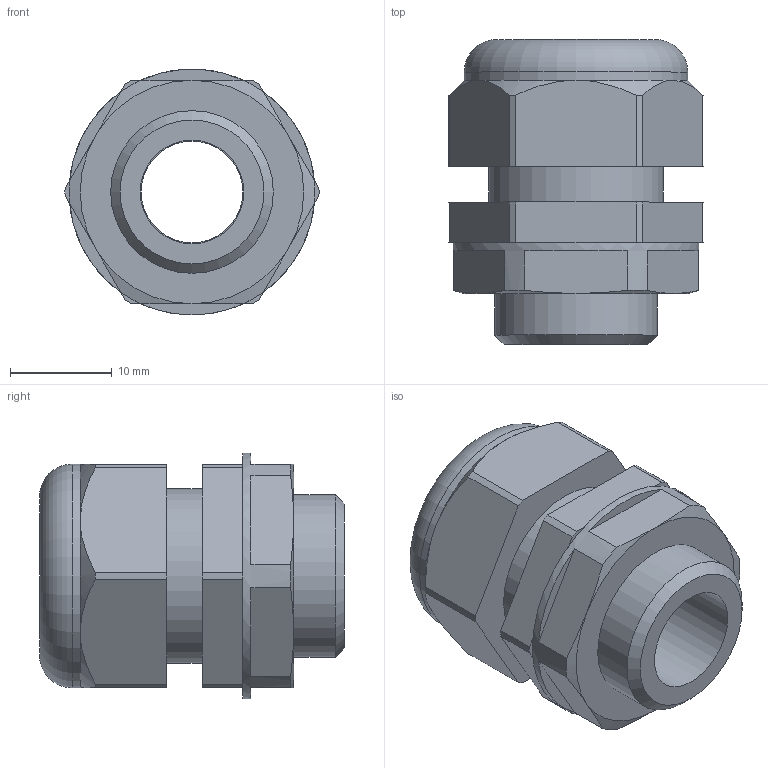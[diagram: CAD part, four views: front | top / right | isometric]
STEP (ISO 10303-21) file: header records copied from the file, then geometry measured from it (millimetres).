
FILE_DESCRIPTION( ( 'STEP AP214' ), '1' );
FILE_NAME( 'p:/temp/worker_149/temp/exporttempdir_5004_31_TKjis/format_0/2411.611(10).stp', '2020-06-09T13:42:13', ( 'License CC BY-ND 4.0' ), ( 'CADENAS' ), ' ', 'PARTsolutions', ' ' );
FILE_SCHEMA( ( 'AUTOMOTIVE_DESIGN { 1 0 10303 214 1 1 1 1 }' ) );
Length unit declared in the file: millimetre
Products named in the file (3): 2411.611(10); _2411.611(10)_01; _2411.611_02
Assembly tree (2 placements, depth 2):
  2411.611(10)
    _2411.611(10)_01
    _2411.611_02
Bounding box: 25 x 30 x 24.2 mm (x, y, z)
Volume: 8203.2 mm3; surface area: 4980 mm2
Topology: 2 solids, 2 shells, 70 faces, 166 edges, 105 vertices
Faces by surface type: plane 33, cylinder 20, cone 16, torus 1
Full cylindrical faces by diameter (mm): 10 x1, 10.2 x2, 14.376 x1, 16 x1, 17.2 x1, 22 x1, 24.2 x1
Entity records: 2636 total; most frequent: CARTESIAN_POINT 451, DIRECTION 340, ORIENTED_EDGE 302, EDGE_CURVE 151, AXIS2_PLACEMENT_3D 140, VERTEX_POINT 103, EDGE_LOOP 92, FACE_OUTER_BOUND 79
